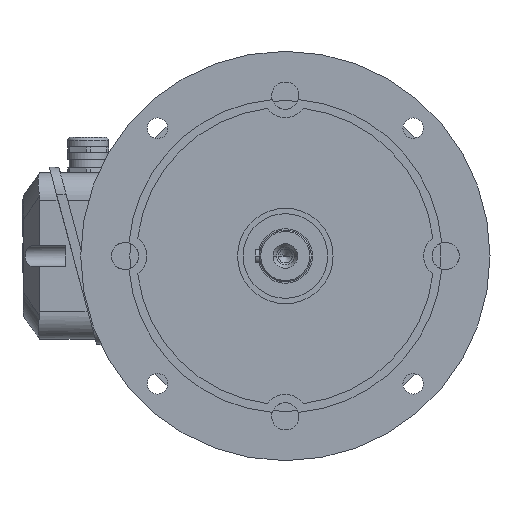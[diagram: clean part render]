
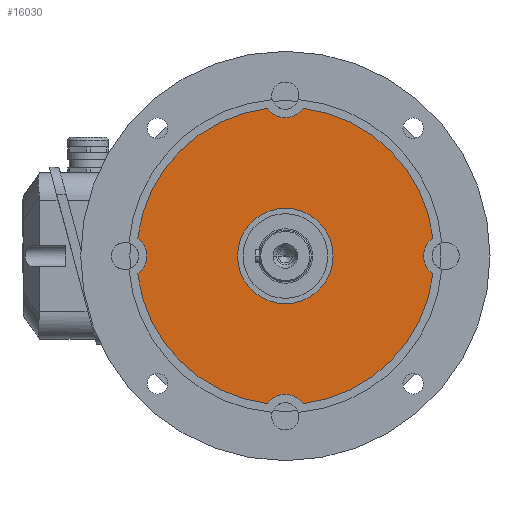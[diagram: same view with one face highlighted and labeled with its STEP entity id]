
A CAD part, left-side view. The second image highlights one B-rep face of the part: STEP entity #16030.
In plain terms, the highlighted planar face has unit normal (-1, 0, 0).
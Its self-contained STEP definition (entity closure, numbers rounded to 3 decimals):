
#180 = AXIS2_PLACEMENT_3D ( 'NONE', #21013, #1359, #6528 ) ;
#186 = CIRCLE ( 'NONE', #21264, 35. ) ;
#532 = VERTEX_POINT ( 'NONE', #21155 ) ;
#698 = CIRCLE ( 'NONE', #180, 35. ) ;
#731 = DIRECTION ( 'NONE',  ( 1., 0., 0. ) ) ;
#1359 = DIRECTION ( 'NONE',  ( 1., 0., 0. ) ) ;
#1606 = ORIENTED_EDGE ( 'NONE', *, *, #22862, .T. ) ;
#1649 = CARTESIAN_POINT ( 'NONE',  ( -59.2, -108.204, -13.145 ) ) ;
#1748 = AXIS2_PLACEMENT_3D ( 'NONE', #12328, #14578, #4584 ) ;
#2259 = DIRECTION ( 'NONE',  ( 1., 0., 0. ) ) ;
#2392 = CIRCLE ( 'NONE', #6329, 109. ) ;
#2540 = DIRECTION ( 'NONE',  ( 0., -1., 0. ) ) ;
#2629 = AXIS2_PLACEMENT_3D ( 'NONE', #15564, #731, #5567 ) ;
#2798 = CARTESIAN_POINT ( 'NONE',  ( -59.2, -108.204, 13.145 ) ) ;
#4115 = EDGE_LOOP ( 'NONE', ( #28358, #17200, #11456, #19038, #16404, #12323, #8033, #27286, #25811 ) ) ;
#4584 = DIRECTION ( 'NONE',  ( 0., -1., 0. ) ) ;
#4616 = CARTESIAN_POINT ( 'NONE',  ( -59.2, 0., 0. ) ) ;
#4694 = VERTEX_POINT ( 'NONE', #31661 ) ;
#5077 = CARTESIAN_POINT ( 'NONE',  ( -59.2, 13.145, -108.204 ) ) ;
#5295 = PLANE ( 'NONE',  #23587 ) ;
#5567 = DIRECTION ( 'NONE',  ( 0., -1., 0. ) ) ;
#6329 = AXIS2_PLACEMENT_3D ( 'NONE', #12790, #14394, #24346 ) ;
#6528 = DIRECTION ( 'NONE',  ( 0., 1., 0. ) ) ;
#7359 = VERTEX_POINT ( 'NONE', #14390 ) ;
#7787 = DIRECTION ( 'NONE',  ( -1., 0., 0. ) ) ;
#8033 = ORIENTED_EDGE ( 'NONE', *, *, #26021, .T. ) ;
#8647 = VERTEX_POINT ( 'NONE', #11464 ) ;
#8938 = CIRCLE ( 'NONE', #1748, 16.1 ) ;
#9790 = CIRCLE ( 'NONE', #25584, 109. ) ;
#10771 = CARTESIAN_POINT ( 'NONE',  ( -59.2, 0., 0. ) ) ;
#10845 = FACE_BOUND ( 'NONE', #16458, .T. ) ;
#11456 = ORIENTED_EDGE ( 'NONE', *, *, #24149, .T. ) ;
#11464 = CARTESIAN_POINT ( 'NONE',  ( -59.2, -35., 0. ) ) ;
#11874 = EDGE_CURVE ( 'NONE', #4694, #30781, #15279, .T. ) ;
#11992 = CIRCLE ( 'NONE', #23503, 16.1 ) ;
#12323 = ORIENTED_EDGE ( 'NONE', *, *, #25870, .F. ) ;
#12328 = CARTESIAN_POINT ( 'NONE',  ( -59.2, -117.5, 0. ) ) ;
#12471 = DIRECTION ( 'NONE',  ( 0., 1., 0. ) ) ;
#12790 = CARTESIAN_POINT ( 'NONE',  ( -59.2, 0., 0. ) ) ;
#13194 = VERTEX_POINT ( 'NONE', #17549 ) ;
#13374 = CARTESIAN_POINT ( 'NONE',  ( -59.2, 0., 0. ) ) ;
#14145 = VERTEX_POINT ( 'NONE', #25916 ) ;
#14146 = DIRECTION ( 'NONE',  ( 0., -1., 0. ) ) ;
#14390 = CARTESIAN_POINT ( 'NONE',  ( -59.2, 13.145, 108.204 ) ) ;
#14394 = DIRECTION ( 'NONE',  ( 1., 0., 0. ) ) ;
#14534 = AXIS2_PLACEMENT_3D ( 'NONE', #17045, #19294, #2540 ) ;
#14578 = DIRECTION ( 'NONE',  ( 1., 0., 0. ) ) ;
#15162 = DIRECTION ( 'NONE',  ( 0., -1., 0. ) ) ;
#15279 = CIRCLE ( 'NONE', #23724, 109. ) ;
#15564 = CARTESIAN_POINT ( 'NONE',  ( -59.2, 117.5, 0. ) ) ;
#15612 = DIRECTION ( 'NONE',  ( 0., 1., 0. ) ) ;
#16030 = ADVANCED_FACE ( 'NONE', ( #31166, #10845 ), #5295, .T. ) ;
#16085 = EDGE_CURVE ( 'NONE', #26927, #19119, #21175, .T. ) ;
#16404 = ORIENTED_EDGE ( 'NONE', *, *, #20030, .T. ) ;
#16458 = EDGE_LOOP ( 'NONE', ( #1606, #27648 ) ) ;
#17021 = CIRCLE ( 'NONE', #14534, 16.1 ) ;
#17040 = AXIS2_PLACEMENT_3D ( 'NONE', #20311, #29868, #15612 ) ;
#17045 = CARTESIAN_POINT ( 'NONE',  ( -59.2, 117.5, 0. ) ) ;
#17200 = ORIENTED_EDGE ( 'NONE', *, *, #22462, .F. ) ;
#17210 = AXIS2_PLACEMENT_3D ( 'NONE', #28821, #19307, #14146 ) ;
#17549 = CARTESIAN_POINT ( 'NONE',  ( -59.2, 101.4, 0. ) ) ;
#17722 = CARTESIAN_POINT ( 'NONE',  ( -59.2, 0., 117.5 ) ) ;
#19038 = ORIENTED_EDGE ( 'NONE', *, *, #11874, .F. ) ;
#19119 = VERTEX_POINT ( 'NONE', #22985 ) ;
#19294 = DIRECTION ( 'NONE',  ( 1., 0., 0. ) ) ;
#19307 = DIRECTION ( 'NONE',  ( 1., 0., 0. ) ) ;
#20030 = EDGE_CURVE ( 'NONE', #4694, #7359, #11992, .T. ) ;
#20311 = CARTESIAN_POINT ( 'NONE',  ( -59.2, 0., 0. ) ) ;
#20876 = CIRCLE ( 'NONE', #17210, 16.1 ) ;
#21013 = CARTESIAN_POINT ( 'NONE',  ( -59.2, 0., 0. ) ) ;
#21155 = CARTESIAN_POINT ( 'NONE',  ( -59.2, 35., 0. ) ) ;
#21173 = DIRECTION ( 'NONE',  ( 0., 1., 0. ) ) ;
#21175 = CIRCLE ( 'NONE', #17040, 109. ) ;
#21264 = AXIS2_PLACEMENT_3D ( 'NONE', #4616, #2259, #12471 ) ;
#21757 = VERTEX_POINT ( 'NONE', #26815 ) ;
#22453 = CARTESIAN_POINT ( 'NONE',  ( -59.2, 35., 0. ) ) ;
#22462 = EDGE_CURVE ( 'NONE', #27657, #14145, #9790, .T. ) ;
#22862 = EDGE_CURVE ( 'NONE', #532, #8647, #186, .T. ) ;
#22985 = CARTESIAN_POINT ( 'NONE',  ( -59.2, 108.204, -13.145 ) ) ;
#23078 = DIRECTION ( 'NONE',  ( 0., 1., 0. ) ) ;
#23503 = AXIS2_PLACEMENT_3D ( 'NONE', #17722, #30052, #15162 ) ;
#23587 = AXIS2_PLACEMENT_3D ( 'NONE', #22453, #7787, #24913 ) ;
#23724 = AXIS2_PLACEMENT_3D ( 'NONE', #13374, #30939, #21173 ) ;
#24035 = EDGE_CURVE ( 'NONE', #26927, #14145, #20876, .T. ) ;
#24149 = EDGE_CURVE ( 'NONE', #27657, #30781, #8938, .T. ) ;
#24213 = EDGE_CURVE ( 'NONE', #13194, #19119, #17021, .T. ) ;
#24346 = DIRECTION ( 'NONE',  ( 0., 1., 0. ) ) ;
#24913 = DIRECTION ( 'NONE',  ( 0., 1., 0. ) ) ;
#25584 = AXIS2_PLACEMENT_3D ( 'NONE', #10771, #27788, #23078 ) ;
#25811 = ORIENTED_EDGE ( 'NONE', *, *, #16085, .F. ) ;
#25870 = EDGE_CURVE ( 'NONE', #21757, #7359, #2392, .T. ) ;
#25916 = CARTESIAN_POINT ( 'NONE',  ( -59.2, -13.145, -108.204 ) ) ;
#26021 = EDGE_CURVE ( 'NONE', #21757, #13194, #26956, .T. ) ;
#26815 = CARTESIAN_POINT ( 'NONE',  ( -59.2, 108.204, 13.145 ) ) ;
#26927 = VERTEX_POINT ( 'NONE', #5077 ) ;
#26956 = CIRCLE ( 'NONE', #2629, 16.1 ) ;
#27159 = EDGE_CURVE ( 'NONE', #8647, #532, #698, .T. ) ;
#27286 = ORIENTED_EDGE ( 'NONE', *, *, #24213, .T. ) ;
#27648 = ORIENTED_EDGE ( 'NONE', *, *, #27159, .T. ) ;
#27657 = VERTEX_POINT ( 'NONE', #1649 ) ;
#27788 = DIRECTION ( 'NONE',  ( 1., 0., 0. ) ) ;
#28358 = ORIENTED_EDGE ( 'NONE', *, *, #24035, .T. ) ;
#28821 = CARTESIAN_POINT ( 'NONE',  ( -59.2, 0., -117.5 ) ) ;
#29868 = DIRECTION ( 'NONE',  ( 1., 0., 0. ) ) ;
#30052 = DIRECTION ( 'NONE',  ( 1., 0., 0. ) ) ;
#30781 = VERTEX_POINT ( 'NONE', #2798 ) ;
#30939 = DIRECTION ( 'NONE',  ( 1., 0., 0. ) ) ;
#31166 = FACE_OUTER_BOUND ( 'NONE', #4115, .T. ) ;
#31661 = CARTESIAN_POINT ( 'NONE',  ( -59.2, -13.145, 108.204 ) ) ;
